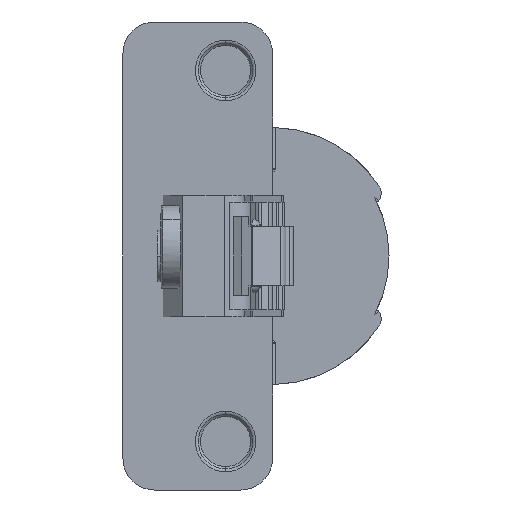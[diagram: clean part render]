
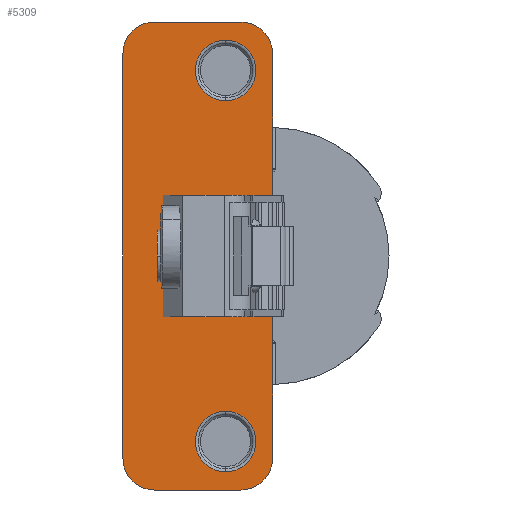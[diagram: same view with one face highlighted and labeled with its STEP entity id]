
A CAD part, left-side view. The second image highlights one B-rep face of the part: STEP entity #5309.
In plain terms, the highlighted planar face has unit normal (-1, 0, 0).
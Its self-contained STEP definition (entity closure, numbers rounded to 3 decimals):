
#25 = CARTESIAN_POINT ( 'NONE',  ( 5.081, 24.084, 28.336 ) ) ;
#50 = CARTESIAN_POINT ( 'NONE',  ( 5.081, 9.702, 21.751 ) ) ;
#73 = DIRECTION ( 'NONE',  ( 0., 0., 1. ) ) ;
#130 = CARTESIAN_POINT ( 'NONE',  ( 5.081, 7.566, -32.782 ) ) ;
#178 = DIRECTION ( 'NONE',  ( 0., -1., 0. ) ) ;
#197 = AXIS2_PLACEMENT_3D ( 'NONE', #2442, #1050, #2415 ) ;
#228 = ORIENTED_EDGE ( 'NONE', *, *, #2656, .T. ) ;
#354 = LINE ( 'NONE', #460, #5338 ) ;
#355 = DIRECTION ( 'NONE',  ( 0., -1., 0. ) ) ;
#435 = DIRECTION ( 'NONE',  ( 0., -1., 0. ) ) ;
#460 = CARTESIAN_POINT ( 'NONE',  ( 5.081, 24.084, -28.336 ) ) ;
#465 = LINE ( 'NONE', #2309, #4776 ) ;
#485 = ORIENTED_EDGE ( 'NONE', *, *, #2561, .T. ) ;
#507 = DIRECTION ( 'NONE',  ( -1., 0., 0. ) ) ;
#611 = CARTESIAN_POINT ( 'NONE',  ( 5.081, 18.426, 8.5 ) ) ;
#622 = CIRCLE ( 'NONE', #2075, 4.249 ) ;
#643 = DIRECTION ( 'NONE',  ( 0., 0., 1. ) ) ;
#665 = CARTESIAN_POINT ( 'NONE',  ( 5.081, 3.12, 28.336 ) ) ;
#708 = CARTESIAN_POINT ( 'NONE',  ( 5.081, 9.702, -21.751 ) ) ;
#710 = EDGE_CURVE ( 'NONE', #734, #3545, #784, .T. ) ;
#723 = CARTESIAN_POINT ( 'NONE',  ( 5.081, 19.638, 32.782 ) ) ;
#732 = CARTESIAN_POINT ( 'NONE',  ( 5.081, 19.638, 32.782 ) ) ;
#734 = VERTEX_POINT ( 'NONE', #723 ) ;
#784 = CIRCLE ( 'NONE', #1535, 4.446 ) ;
#915 = AXIS2_PLACEMENT_3D ( 'NONE', #3982, #5204, #73 ) ;
#917 = VECTOR ( 'NONE', #1699, 1000. ) ;
#946 = DIRECTION ( 'NONE',  ( 0., 0., 1. ) ) ;
#972 = EDGE_CURVE ( 'NONE', #4771, #996, #2606, .T. ) ;
#996 = VERTEX_POINT ( 'NONE', #5084 ) ;
#1039 = AXIS2_PLACEMENT_3D ( 'NONE', #5259, #507, #4824 ) ;
#1050 = DIRECTION ( 'NONE',  ( 1., 0., 0. ) ) ;
#1157 = EDGE_CURVE ( 'NONE', #2300, #4216, #2975, .T. ) ;
#1299 = CARTESIAN_POINT ( 'NONE',  ( 5.081, 9.997, 8.5 ) ) ;
#1342 = CARTESIAN_POINT ( 'NONE',  ( 5.081, 9.702, 30.249 ) ) ;
#1399 = DIRECTION ( 'NONE',  ( 0., 0., 1. ) ) ;
#1431 = VERTEX_POINT ( 'NONE', #4857 ) ;
#1449 = LINE ( 'NONE', #130, #4333 ) ;
#1515 = ORIENTED_EDGE ( 'NONE', *, *, #2855, .T. ) ;
#1535 = AXIS2_PLACEMENT_3D ( 'NONE', #2008, #2433, #3360 ) ;
#1573 = CIRCLE ( 'NONE', #2826, 4.249 ) ;
#1636 = CARTESIAN_POINT ( 'NONE',  ( 5.081, 9.702, 26. ) ) ;
#1668 = VERTEX_POINT ( 'NONE', #4493 ) ;
#1699 = DIRECTION ( 'NONE',  ( 0., -1., 0. ) ) ;
#1761 = VERTEX_POINT ( 'NONE', #708 ) ;
#1818 = ORIENTED_EDGE ( 'NONE', *, *, #4232, .T. ) ;
#1898 = CARTESIAN_POINT ( 'NONE',  ( 5.081, 3.12, 8.5 ) ) ;
#1914 = LINE ( 'NONE', #3629, #4627 ) ;
#1932 = EDGE_CURVE ( 'NONE', #2050, #2026, #622, .T. ) ;
#2008 = CARTESIAN_POINT ( 'NONE',  ( 5.081, 19.638, 28.336 ) ) ;
#2026 = VERTEX_POINT ( 'NONE', #1342 ) ;
#2050 = VERTEX_POINT ( 'NONE', #50 ) ;
#2075 = AXIS2_PLACEMENT_3D ( 'NONE', #1636, #3478, #1399 ) ;
#2091 = DIRECTION ( 'NONE',  ( 0., 1., 0. ) ) ;
#2135 = ORIENTED_EDGE ( 'NONE', *, *, #3057, .T. ) ;
#2148 = EDGE_LOOP ( 'NONE', ( #3455, #3233, #228, #2135, #485, #3154, #3082, #3153, #3647, #1818, #1515, #2732 ) ) ;
#2266 = VERTEX_POINT ( 'NONE', #2406 ) ;
#2300 = VERTEX_POINT ( 'NONE', #665 ) ;
#2309 = CARTESIAN_POINT ( 'NONE',  ( 5.081, 3.12, -28.336 ) ) ;
#2383 = DIRECTION ( 'NONE',  ( 1., 0., 0. ) ) ;
#2399 = VERTEX_POINT ( 'NONE', #4200 ) ;
#2406 = CARTESIAN_POINT ( 'NONE',  ( 5.081, 3.12, -8.5 ) ) ;
#2415 = DIRECTION ( 'NONE',  ( 0., 0., 1. ) ) ;
#2433 = DIRECTION ( 'NONE',  ( -1., 0., 0. ) ) ;
#2442 = CARTESIAN_POINT ( 'NONE',  ( 5.081, 9.702, -26. ) ) ;
#2495 = CARTESIAN_POINT ( 'NONE',  ( 5.081, 12.549, -8.5 ) ) ;
#2504 = EDGE_LOOP ( 'NONE', ( #3962, #5226 ) ) ;
#2561 = EDGE_CURVE ( 'NONE', #4635, #2300, #465, .T. ) ;
#2606 = CIRCLE ( 'NONE', #4044, 4.446 ) ;
#2624 = LINE ( 'NONE', #1299, #917 ) ;
#2646 = CIRCLE ( 'NONE', #197, 4.249 ) ;
#2656 = EDGE_CURVE ( 'NONE', #2399, #4106, #3760, .T. ) ;
#2732 = ORIENTED_EDGE ( 'NONE', *, *, #972, .T. ) ;
#2738 = CARTESIAN_POINT ( 'NONE',  ( 5.081, 7.566, 28.336 ) ) ;
#2826 = AXIS2_PLACEMENT_3D ( 'NONE', #5374, #2383, #643 ) ;
#2855 = EDGE_CURVE ( 'NONE', #1668, #4771, #1449, .T. ) ;
#2885 = CARTESIAN_POINT ( 'NONE',  ( 5.081, 7.566, -32.782 ) ) ;
#2904 = VECTOR ( 'NONE', #4646, 1000. ) ;
#2914 = DIRECTION ( 'NONE',  ( -1., 0., 0. ) ) ;
#2916 = CIRCLE ( 'NONE', #3279, 4.446 ) ;
#2949 = ORIENTED_EDGE ( 'NONE', *, *, #4049, .T. ) ;
#2975 = CIRCLE ( 'NONE', #3958, 4.446 ) ;
#2996 = VECTOR ( 'NONE', #5041, 1000. ) ;
#3057 = EDGE_CURVE ( 'NONE', #4106, #4635, #2624, .T. ) ;
#3082 = ORIENTED_EDGE ( 'NONE', *, *, #3717, .T. ) ;
#3114 = FACE_OUTER_BOUND ( 'NONE', #2148, .T. ) ;
#3153 = ORIENTED_EDGE ( 'NONE', *, *, #710, .T. ) ;
#3154 = ORIENTED_EDGE ( 'NONE', *, *, #1157, .T. ) ;
#3233 = ORIENTED_EDGE ( 'NONE', *, *, #4465, .T. ) ;
#3279 = AXIS2_PLACEMENT_3D ( 'NONE', #4641, #2914, #355 ) ;
#3360 = DIRECTION ( 'NONE',  ( 0., -1., 0. ) ) ;
#3455 = ORIENTED_EDGE ( 'NONE', *, *, #4880, .T. ) ;
#3478 = DIRECTION ( 'NONE',  ( 1., 0., 0. ) ) ;
#3485 = DIRECTION ( 'NONE',  ( 0., 0., -1. ) ) ;
#3545 = VERTEX_POINT ( 'NONE', #25 ) ;
#3629 = CARTESIAN_POINT ( 'NONE',  ( 5.081, 3.12, -28.336 ) ) ;
#3647 = ORIENTED_EDGE ( 'NONE', *, *, #4780, .T. ) ;
#3717 = EDGE_CURVE ( 'NONE', #4216, #734, #4964, .T. ) ;
#3735 = CARTESIAN_POINT ( 'NONE',  ( 5.081, 18.426, -88.107 ) ) ;
#3760 = LINE ( 'NONE', #3735, #2904 ) ;
#3883 = DIRECTION ( 'NONE',  ( -1., 0., 0. ) ) ;
#3958 = AXIS2_PLACEMENT_3D ( 'NONE', #2738, #4447, #178 ) ;
#3962 = ORIENTED_EDGE ( 'NONE', *, *, #3976, .T. ) ;
#3976 = EDGE_CURVE ( 'NONE', #2026, #2050, #5052, .T. ) ;
#3982 = CARTESIAN_POINT ( 'NONE',  ( 5.081, 9.702, 26. ) ) ;
#4044 = AXIS2_PLACEMENT_3D ( 'NONE', #4304, #3883, #435 ) ;
#4049 = EDGE_CURVE ( 'NONE', #1761, #1431, #1573, .T. ) ;
#4081 = DIRECTION ( 'NONE',  ( 0., 0., 1. ) ) ;
#4106 = VERTEX_POINT ( 'NONE', #611 ) ;
#4200 = CARTESIAN_POINT ( 'NONE',  ( 5.081, 18.426, -8.5 ) ) ;
#4216 = VERTEX_POINT ( 'NONE', #4616 ) ;
#4232 = EDGE_CURVE ( 'NONE', #4448, #1668, #2916, .T. ) ;
#4304 = CARTESIAN_POINT ( 'NONE',  ( 5.081, 7.566, -28.336 ) ) ;
#4331 = EDGE_CURVE ( 'NONE', #1431, #1761, #2646, .T. ) ;
#4333 = VECTOR ( 'NONE', #4735, 1000. ) ;
#4348 = PLANE ( 'NONE',  #1039 ) ;
#4376 = FACE_BOUND ( 'NONE', #5494, .T. ) ;
#4447 = DIRECTION ( 'NONE',  ( -1., 0., 0. ) ) ;
#4448 = VERTEX_POINT ( 'NONE', #4619 ) ;
#4465 = EDGE_CURVE ( 'NONE', #2266, #2399, #5150, .T. ) ;
#4493 = CARTESIAN_POINT ( 'NONE',  ( 5.081, 19.638, -32.782 ) ) ;
#4494 = ORIENTED_EDGE ( 'NONE', *, *, #4331, .T. ) ;
#4616 = CARTESIAN_POINT ( 'NONE',  ( 5.081, 7.566, 32.782 ) ) ;
#4619 = CARTESIAN_POINT ( 'NONE',  ( 5.081, 24.084, -28.336 ) ) ;
#4627 = VECTOR ( 'NONE', #4081, 1000. ) ;
#4635 = VERTEX_POINT ( 'NONE', #1898 ) ;
#4641 = CARTESIAN_POINT ( 'NONE',  ( 5.081, 19.638, -28.336 ) ) ;
#4646 = DIRECTION ( 'NONE',  ( 0., 0., 1. ) ) ;
#4735 = DIRECTION ( 'NONE',  ( 0., -1., 0. ) ) ;
#4771 = VERTEX_POINT ( 'NONE', #2885 ) ;
#4776 = VECTOR ( 'NONE', #946, 1000. ) ;
#4780 = EDGE_CURVE ( 'NONE', #3545, #4448, #354, .T. ) ;
#4798 = FACE_BOUND ( 'NONE', #2504, .T. ) ;
#4824 = DIRECTION ( 'NONE',  ( 0., 0., 1. ) ) ;
#4857 = CARTESIAN_POINT ( 'NONE',  ( 5.081, 9.702, -30.249 ) ) ;
#4880 = EDGE_CURVE ( 'NONE', #996, #2266, #1914, .T. ) ;
#4964 = LINE ( 'NONE', #732, #2996 ) ;
#5041 = DIRECTION ( 'NONE',  ( 0., 1., 0. ) ) ;
#5052 = CIRCLE ( 'NONE', #915, 4.249 ) ;
#5084 = CARTESIAN_POINT ( 'NONE',  ( 5.081, 3.12, -28.336 ) ) ;
#5150 = LINE ( 'NONE', #2495, #5428 ) ;
#5204 = DIRECTION ( 'NONE',  ( 1., 0., 0. ) ) ;
#5226 = ORIENTED_EDGE ( 'NONE', *, *, #1932, .T. ) ;
#5259 = CARTESIAN_POINT ( 'NONE',  ( 5.081, 7.566, -26.536 ) ) ;
#5309 = ADVANCED_FACE ( 'NONE', ( #4376, #4798, #3114 ), #4348, .T. ) ;
#5338 = VECTOR ( 'NONE', #3485, 1000. ) ;
#5374 = CARTESIAN_POINT ( 'NONE',  ( 5.081, 9.702, -26. ) ) ;
#5428 = VECTOR ( 'NONE', #2091, 1000. ) ;
#5494 = EDGE_LOOP ( 'NONE', ( #2949, #4494 ) ) ;
